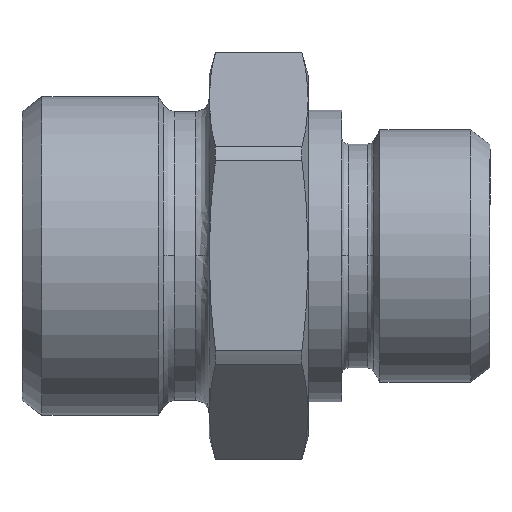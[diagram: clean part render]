
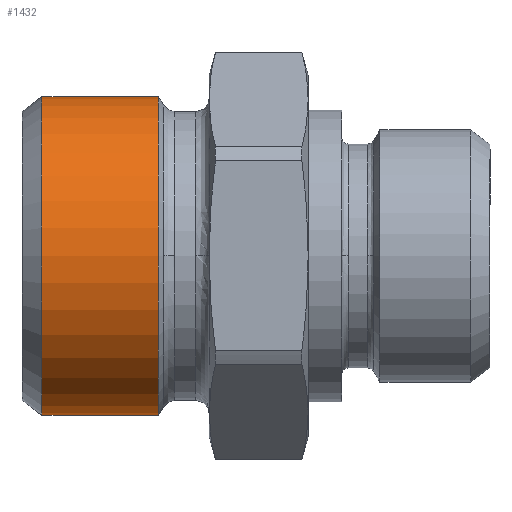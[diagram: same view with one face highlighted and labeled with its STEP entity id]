
A CAD part, top view. The second image highlights one B-rep face of the part: STEP entity #1432.
In plain terms, the highlighted cylindrical face has radius 11.925 mm (diameter 23.85 mm), a partial arc.
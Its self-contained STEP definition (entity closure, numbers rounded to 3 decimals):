
#766=CARTESIAN_POINT('',(0.,-11.925,16.207));
#767=VERTEX_POINT('',#766);
#768=CARTESIAN_POINT('',(0.,-11.925,7.5));
#769=VERTEX_POINT('',#768);
#770=CARTESIAN_POINT('',(0.,-11.925,16.207));
#771=DIRECTION('',(0.0,0.0,-1.0));
#772=VECTOR('',#771,8.708);
#773=LINE('',#770,#772);
#774=EDGE_CURVE('',#767,#769,#773,.T.);
#776=CARTESIAN_POINT('',(0.,11.925,16.207));
#777=VERTEX_POINT('',#776);
#785=CARTESIAN_POINT('',(0.,11.925,7.5));
#786=VERTEX_POINT('',#785);
#787=CARTESIAN_POINT('',(0.,11.925,7.5));
#788=DIRECTION('',(0.0,0.0,1.0));
#789=VECTOR('',#788,8.708);
#790=LINE('',#787,#789);
#791=EDGE_CURVE('',#786,#777,#790,.T.);
#1308=CARTESIAN_POINT('',(0.,0.,7.5));
#1309=DIRECTION('',(0.0,0.0,-1.0));
#1310=DIRECTION('',(0.0,-1.0,0.0));
#1311=AXIS2_PLACEMENT_3D('',#1308,#1309,#1310);
#1312=CIRCLE('',#1311,11.925);
#1313=EDGE_CURVE('',#786,#769,#1312,.T.);
#1409=CARTESIAN_POINT('',(0.,0.,16.207));
#1410=DIRECTION('',(0.0,0.0,-1.0));
#1411=DIRECTION('',(0.0,-1.0,0.0));
#1412=AXIS2_PLACEMENT_3D('',#1409,#1410,#1411);
#1413=CIRCLE('',#1412,11.925);
#1414=EDGE_CURVE('',#777,#767,#1413,.T.);
#1421=CARTESIAN_POINT('',(0.,0.,11.853));
#1422=DIRECTION('',(0.,0.,-1.0));
#1423=DIRECTION('',(0.0,-1.0,0.0));
#1424=AXIS2_PLACEMENT_3D('',#1421,#1422,#1423);
#1425=CYLINDRICAL_SURFACE('',#1424,11.925);
#1426=ORIENTED_EDGE('',*,*,#774,.T.);
#1427=ORIENTED_EDGE('',*,*,#1313,.F.);
#1428=ORIENTED_EDGE('',*,*,#791,.T.);
#1429=ORIENTED_EDGE('',*,*,#1414,.T.);
#1430=EDGE_LOOP('',(#1426,#1427,#1428,#1429));
#1431=FACE_OUTER_BOUND('',#1430,.T.);
#1432=ADVANCED_FACE('',(#1431),#1425,.T.);
